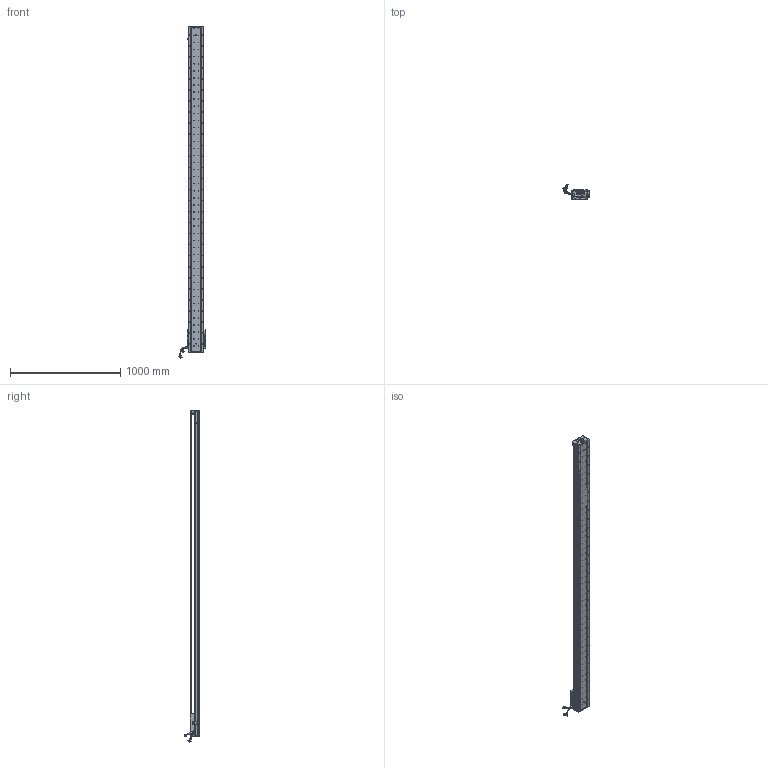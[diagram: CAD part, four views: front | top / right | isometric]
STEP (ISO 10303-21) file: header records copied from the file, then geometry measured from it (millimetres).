
FILE_DESCRIPTION (( 'STEP AP203' ), '1' );
FILE_NAME ('Z2-RY140D-1-L500-B-K.SLDASM_2700.step', '2021-05-17T07:50:50', ( '盈信电脑' ), ( '东莞市道滘镇水果街19号' ), 'SwSTEP 2.0', 'SolidWorks 2016', '' );
FILE_SCHEMA (( 'CONFIG_CONTROL_DESIGN' ));
Length unit declared in the file: millimetre
Products named in the file (36): Z2-RY140-L500詩湍100mm遵_2700; 榋妏寠巭燃_暯_M2_2; SCALE-Part-1; PSLH080_PSLF2; COVER; PBU_SHEET; HARNESS-Part-2; Z-140詩湍傷裔啣; Z2-RY140-L500直线电机模组底座_2700; 覜茼ん672; 140蚥薯蝶輸; SCALE; Z2-RY140圉猾敕臏賑輸(21遴); SCREW-M1.6; Z2-RY140D-1-L500-B-K.SLDASM_2700; Z-RY140詩湍狟揤裔; 080黍杅芛假蚾釱21遴; SEAL; SHIELDPLATE; SCREW-M1.6-1; 140雄赽晤鎢ん堤盄; SCREW-M1.7-1; SEAL-Part-1; LABEL-Part-1; COVER-Part-1; HARNESS-Part-1; SCREW-M1.6-2; 140-Z-臏賑輸盄裔(21遴); SCALE-Part-2; LABEL; Z-RY140詩湍奻揤裔; SCREW-M1.7; HARNESS; HOLDER0; Z-RY140感应器672光电感应片; SCREW-M1.6-3
Assembly tree (41 placements, depth 4):
  Z2-RY140D-1-L500-B-K.SLDASM_2700
    Z2-RY140-L500直线电机模组底座_2700
    Z-RY140感应器672光电感应片
    Z2-RY140圉猾敕臏賑輸(21遴)
    覜茼ん672  x3
    Z2-RY140-L500詩湍100mm遵_2700
    PSLH080_PSLF2
      SCALE
        SCALE-Part-1
        SCALE-Part-2
      HARNESS
        HARNESS-Part-1
        HARNESS-Part-2
      LABEL
        LABEL-Part-1
      COVER
        COVER-Part-1
      SEAL
        SEAL-Part-1
      榋妏寠巭燃_暯_M2_2
      SHIELDPLATE
      SCREW-M1.7
      SCREW-M1.7-1
      PBU_SHEET
      SCREW-M1.6
      SCREW-M1.6-1
      SCREW-M1.6-2
      SCREW-M1.6-3
      HOLDER0
    080黍杅芛假蚾釱21遴
    140-Z-臏賑輸盄裔(21遴)
    Z-140詩湍傷裔啣  x2
    Z-RY140詩湍狟揤裔  x2
    Z-RY140詩湍奻揤裔  x2
    140蚥薯蝶輸  x2
    140雄赽晤鎢ん堤盄
Bounding box: 239.79 x 143.77 x 3010.87 mm (x, y, z)
Volume: 9333248.1 mm3; surface area: 2453201 mm2
Topology: 36 solids, 36 shells, 4328 faces, 11828 edges, 7495 vertices
Faces by surface type: cylinder 2378, plane 1408, cone 410, torus 79, bspline 53
Entity records: 138888 total; most frequent: CARTESIAN_POINT 39859, ORIENTED_EDGE 20544, DIRECTION 18852, EDGE_CURVE 10272, AXIS2_PLACEMENT_3D 7024, VERTEX_POINT 6663, VECTOR 4804, LINE 4804
